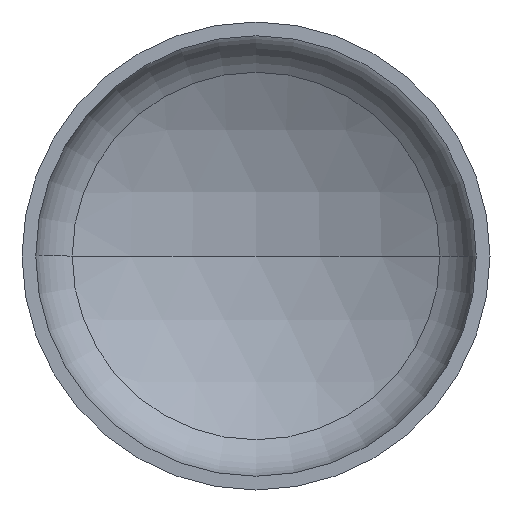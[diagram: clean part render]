
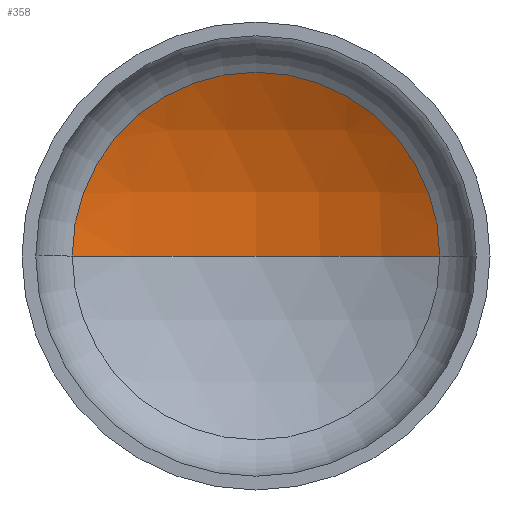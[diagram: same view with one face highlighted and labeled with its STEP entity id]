
A CAD part, front view. The second image highlights one B-rep face of the part: STEP entity #358.
In plain terms, the highlighted spherical face has radius 1360 mm.
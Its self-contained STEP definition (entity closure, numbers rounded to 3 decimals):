
#1 = FACE_OUTER_BOUND ( 'NONE', #21, .T. ) ;
#5 = AXIS2_PLACEMENT_3D ( 'NONE', #121, #83, #67 ) ;
#7 = AXIS2_PLACEMENT_3D ( 'NONE', #315, #137, #341 ) ;
#9 = AXIS2_PLACEMENT_3D ( 'NONE', #300, #208, #23 ) ;
#21 = EDGE_LOOP ( 'NONE', ( #240, #183, #103 ) ) ;
#23 = DIRECTION ( 'NONE',  ( 1., 0., 0. ) ) ;
#44 = VERTEX_POINT ( 'NONE', #328 ) ;
#67 = DIRECTION ( 'NONE',  ( -1., 0., 0. ) ) ;
#78 = CARTESIAN_POINT ( 'NONE',  ( 667.636, 376.515, 0. ) ) ;
#83 = DIRECTION ( 'NONE',  ( 0., 0., -1. ) ) ;
#93 = VERTEX_POINT ( 'NONE', #151 ) ;
#103 = ORIENTED_EDGE ( 'NONE', *, *, #381, .T. ) ;
#121 = CARTESIAN_POINT ( 'NONE',  ( 0., -808.332, 0. ) ) ;
#137 = DIRECTION ( 'NONE',  ( 0., 0., -1. ) ) ;
#139 = CIRCLE ( 'NONE', #9, 1360. ) ;
#151 = CARTESIAN_POINT ( 'NONE',  ( 0., 551.668, 0. ) ) ;
#183 = ORIENTED_EDGE ( 'NONE', *, *, #371, .T. ) ;
#208 = DIRECTION ( 'NONE',  ( 0., 0., 1. ) ) ;
#229 = VERTEX_POINT ( 'NONE', #78 ) ;
#238 = DIRECTION ( 'NONE',  ( 0., -1., 0. ) ) ;
#240 = ORIENTED_EDGE ( 'NONE', *, *, #349, .F. ) ;
#291 = AXIS2_PLACEMENT_3D ( 'NONE', #385, #238, #335 ) ;
#300 = CARTESIAN_POINT ( 'NONE',  ( 0., -808.332, 0. ) ) ;
#315 = CARTESIAN_POINT ( 'NONE',  ( 0., -808.332, 0. ) ) ;
#328 = CARTESIAN_POINT ( 'NONE',  ( -667.636, 376.515, 0. ) ) ;
#335 = DIRECTION ( 'NONE',  ( 1., 0., 0. ) ) ;
#341 = DIRECTION ( 'NONE',  ( -1., 0., 0. ) ) ;
#349 = EDGE_CURVE ( 'NONE', #93, #44, #139, .T. ) ;
#350 = CIRCLE ( 'NONE', #291, 667.636 ) ;
#358 = ADVANCED_FACE ( 'NONE', ( #1 ), #359, .F. ) ;
#359 = SPHERICAL_SURFACE ( 'NONE', #5, 1360. ) ;
#371 = EDGE_CURVE ( 'NONE', #93, #229, #408, .T. ) ;
#381 = EDGE_CURVE ( 'NONE', #229, #44, #350, .T. ) ;
#385 = CARTESIAN_POINT ( 'NONE',  ( 0., 376.515, 0. ) ) ;
#408 = CIRCLE ( 'NONE', #7, 1360. ) ;
